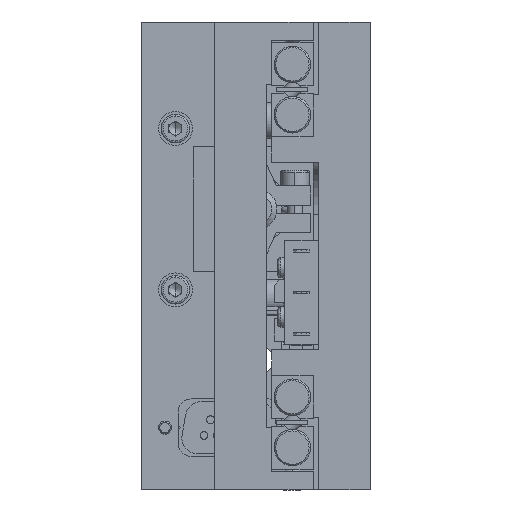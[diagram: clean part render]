
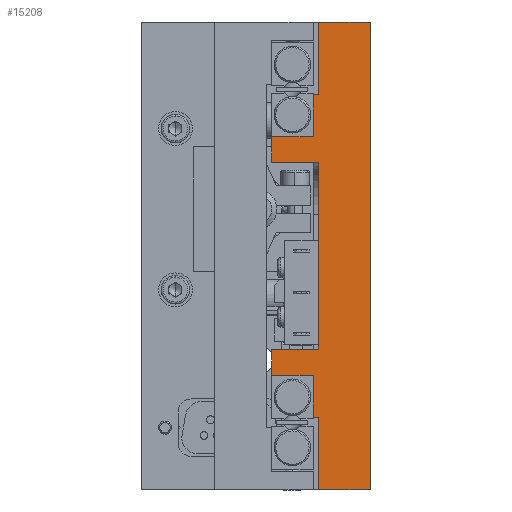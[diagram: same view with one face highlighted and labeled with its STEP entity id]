
A CAD part, left-side view. The second image highlights one B-rep face of the part: STEP entity #15208.
In plain terms, the highlighted planar face has unit normal (-1, 0, 0).
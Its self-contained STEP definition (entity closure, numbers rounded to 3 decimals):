
#356 = VECTOR ( 'NONE', #20296, 1000. ) ;
#985 = LINE ( 'NONE', #25962, #58666 ) ;
#1783 = ORIENTED_EDGE ( 'NONE', *, *, #14776, .F. ) ;
#2504 = CARTESIAN_POINT ( 'NONE',  ( -92.5, 11., -45. ) ) ;
#2516 = CARTESIAN_POINT ( 'NONE',  ( -92.5, 0., 45. ) ) ;
#2551 = ORIENTED_EDGE ( 'NONE', *, *, #43478, .F. ) ;
#3396 = VERTEX_POINT ( 'NONE', #4581 ) ;
#3500 = VECTOR ( 'NONE', #9594, 1000. ) ;
#4581 = CARTESIAN_POINT ( 'NONE',  ( -92.5, 0., 45. ) ) ;
#4767 = CARTESIAN_POINT ( 'NONE',  ( -92.5, 11., -45. ) ) ;
#5272 = CARTESIAN_POINT ( 'NONE',  ( -92.5, 11., -31. ) ) ;
#5481 = DIRECTION ( 'NONE',  ( 0., 0., 1. ) ) ;
#6844 = VECTOR ( 'NONE', #11572, 1000. ) ;
#6858 = VERTEX_POINT ( 'NONE', #59880 ) ;
#7844 = EDGE_CURVE ( 'NONE', #6858, #22664, #67480, .T. ) ;
#8087 = VECTOR ( 'NONE', #5481, 1000. ) ;
#8122 = DIRECTION ( 'NONE',  ( 0., 0., 1. ) ) ;
#8219 = ORIENTED_EDGE ( 'NONE', *, *, #21874, .T. ) ;
#8405 = VERTEX_POINT ( 'NONE', #64550 ) ;
#8665 = FACE_OUTER_BOUND ( 'NONE', #16712, .T. ) ;
#9380 = CARTESIAN_POINT ( 'NONE',  ( -92.5, 10., -45. ) ) ;
#9594 = DIRECTION ( 'NONE',  ( 0., 0., 1. ) ) ;
#9956 = VERTEX_POINT ( 'NONE', #59500 ) ;
#10238 = EDGE_CURVE ( 'NONE', #25794, #59289, #42739, .T. ) ;
#10387 = DIRECTION ( 'NONE',  ( 0., 0., 1. ) ) ;
#10491 = ORIENTED_EDGE ( 'NONE', *, *, #20041, .F. ) ;
#10997 = VERTEX_POINT ( 'NONE', #45585 ) ;
#11572 = DIRECTION ( 'NONE',  ( 0., 1., 0. ) ) ;
#14453 = ORIENTED_EDGE ( 'NONE', *, *, #44999, .F. ) ;
#14485 = AXIS2_PLACEMENT_3D ( 'NONE', #19504, #58612, #25129 ) ;
#14522 = VECTOR ( 'NONE', #31451, 1000. ) ;
#14776 = EDGE_CURVE ( 'NONE', #60569, #36985, #62900, .T. ) ;
#15208 = ADVANCED_FACE ( 'NONE', ( #8665 ), #52976, .F. ) ;
#15747 = EDGE_CURVE ( 'NONE', #40374, #60569, #34816, .T. ) ;
#15939 = CARTESIAN_POINT ( 'NONE',  ( -92.5, 10., -45. ) ) ;
#16204 = CARTESIAN_POINT ( 'NONE',  ( -92.5, 10., -18. ) ) ;
#16448 = VERTEX_POINT ( 'NONE', #37119 ) ;
#16620 = VECTOR ( 'NONE', #71818, 1000. ) ;
#16712 = EDGE_LOOP ( 'NONE', ( #57463, #10491, #66011, #55910, #40247, #14453, #26821, #29948, #2551, #1783, #45186, #55033, #56309, #40771, #53213, #8219 ) ) ;
#16826 = VECTOR ( 'NONE', #8122, 1000. ) ;
#19504 = CARTESIAN_POINT ( 'NONE',  ( -92.5, 10., -45. ) ) ;
#20041 = EDGE_CURVE ( 'NONE', #56666, #16448, #21443, .T. ) ;
#20296 = DIRECTION ( 'NONE',  ( 0., -1., 0. ) ) ;
#20421 = VERTEX_POINT ( 'NONE', #21073 ) ;
#20574 = VECTOR ( 'NONE', #68244, 1000. ) ;
#21073 = CARTESIAN_POINT ( 'NONE',  ( -92.5, 11., 31. ) ) ;
#21443 = LINE ( 'NONE', #9380, #34524 ) ;
#21874 = EDGE_CURVE ( 'NONE', #25794, #3396, #61389, .T. ) ;
#22664 = VERTEX_POINT ( 'NONE', #58510 ) ;
#23401 = EDGE_CURVE ( 'NONE', #66148, #6858, #44631, .T. ) ;
#23562 = CARTESIAN_POINT ( 'NONE',  ( -92.5, 11., 31. ) ) ;
#24965 = DIRECTION ( 'NONE',  ( 0., 0., 1. ) ) ;
#25129 = DIRECTION ( 'NONE',  ( 0., 0., -1. ) ) ;
#25292 = LINE ( 'NONE', #2504, #66368 ) ;
#25308 = DIRECTION ( 'NONE',  ( 0., 1., 0. ) ) ;
#25794 = VERTEX_POINT ( 'NONE', #39560 ) ;
#25962 = CARTESIAN_POINT ( 'NONE',  ( -92.5, 11., -31. ) ) ;
#26821 = ORIENTED_EDGE ( 'NONE', *, *, #7844, .F. ) ;
#26856 = VECTOR ( 'NONE', #10387, 1000. ) ;
#27723 = CARTESIAN_POINT ( 'NONE',  ( -92.5, 19., -45. ) ) ;
#28302 = LINE ( 'NONE', #53798, #356 ) ;
#28692 = CARTESIAN_POINT ( 'NONE',  ( -92.5, 10., -45. ) ) ;
#29355 = CARTESIAN_POINT ( 'NONE',  ( -92.5, 11., -23. ) ) ;
#29395 = LINE ( 'NONE', #37060, #14522 ) ;
#29948 = ORIENTED_EDGE ( 'NONE', *, *, #23401, .F. ) ;
#31451 = DIRECTION ( 'NONE',  ( 0., -1., 0. ) ) ;
#31853 = CARTESIAN_POINT ( 'NONE',  ( -92.5, 10., 23. ) ) ;
#31991 = EDGE_CURVE ( 'NONE', #59289, #10997, #71866, .T. ) ;
#32492 = CARTESIAN_POINT ( 'NONE',  ( -92.5, 19., -23. ) ) ;
#33209 = VERTEX_POINT ( 'NONE', #5272 ) ;
#34524 = VECTOR ( 'NONE', #42886, 1000. ) ;
#34816 = LINE ( 'NONE', #56513, #6844 ) ;
#36985 = VERTEX_POINT ( 'NONE', #57366 ) ;
#37060 = CARTESIAN_POINT ( 'NONE',  ( -92.5, 10., 45. ) ) ;
#37119 = CARTESIAN_POINT ( 'NONE',  ( -92.5, 10., 45. ) ) ;
#37857 = LINE ( 'NONE', #27723, #8087 ) ;
#38416 = DIRECTION ( 'NONE',  ( 0., 0., 1. ) ) ;
#39560 = CARTESIAN_POINT ( 'NONE',  ( -92.5, 0., -45. ) ) ;
#40247 = ORIENTED_EDGE ( 'NONE', *, *, #55674, .F. ) ;
#40374 = VERTEX_POINT ( 'NONE', #29355 ) ;
#40771 = ORIENTED_EDGE ( 'NONE', *, *, #31991, .F. ) ;
#41182 = EDGE_CURVE ( 'NONE', #16448, #3396, #29395, .T. ) ;
#42168 = VECTOR ( 'NONE', #38416, 1000. ) ;
#42739 = LINE ( 'NONE', #28692, #68881 ) ;
#42780 = VECTOR ( 'NONE', #70866, 1000. ) ;
#42886 = DIRECTION ( 'NONE',  ( 0., 0., 1. ) ) ;
#43478 = EDGE_CURVE ( 'NONE', #36985, #66148, #28302, .T. ) ;
#44537 = LINE ( 'NONE', #31853, #42780 ) ;
#44631 = LINE ( 'NONE', #60580, #16620 ) ;
#44999 = EDGE_CURVE ( 'NONE', #22664, #9956, #37857, .T. ) ;
#45186 = ORIENTED_EDGE ( 'NONE', *, *, #15747, .F. ) ;
#45585 = CARTESIAN_POINT ( 'NONE',  ( -92.5, 10., -31. ) ) ;
#46788 = EDGE_CURVE ( 'NONE', #33209, #10997, #985, .T. ) ;
#47758 = EDGE_CURVE ( 'NONE', #8405, #20421, #25292, .T. ) ;
#51910 = CARTESIAN_POINT ( 'NONE',  ( -92.5, 10., -45. ) ) ;
#52021 = LINE ( 'NONE', #23562, #20574 ) ;
#52622 = VECTOR ( 'NONE', #25308, 1000. ) ;
#52976 = PLANE ( 'NONE',  #14485 ) ;
#53213 = ORIENTED_EDGE ( 'NONE', *, *, #10238, .F. ) ;
#53798 = CARTESIAN_POINT ( 'NONE',  ( -92.5, 10., -18. ) ) ;
#55033 = ORIENTED_EDGE ( 'NONE', *, *, #56847, .F. ) ;
#55674 = EDGE_CURVE ( 'NONE', #9956, #8405, #44537, .T. ) ;
#55910 = ORIENTED_EDGE ( 'NONE', *, *, #47758, .F. ) ;
#56309 = ORIENTED_EDGE ( 'NONE', *, *, #46788, .T. ) ;
#56513 = CARTESIAN_POINT ( 'NONE',  ( -92.5, 10., -23. ) ) ;
#56536 = DIRECTION ( 'NONE',  ( 0., 1., 0. ) ) ;
#56553 = LINE ( 'NONE', #4767, #26856 ) ;
#56666 = VERTEX_POINT ( 'NONE', #64585 ) ;
#56847 = EDGE_CURVE ( 'NONE', #33209, #40374, #56553, .T. ) ;
#57366 = CARTESIAN_POINT ( 'NONE',  ( -92.5, 19., -18. ) ) ;
#57463 = ORIENTED_EDGE ( 'NONE', *, *, #41182, .F. ) ;
#58510 = CARTESIAN_POINT ( 'NONE',  ( -92.5, 19., 18. ) ) ;
#58612 = DIRECTION ( 'NONE',  ( 1., 0., 0. ) ) ;
#58666 = VECTOR ( 'NONE', #70646, 1000. ) ;
#58785 = CARTESIAN_POINT ( 'NONE',  ( -92.5, 10., 18. ) ) ;
#59289 = VERTEX_POINT ( 'NONE', #51910 ) ;
#59500 = CARTESIAN_POINT ( 'NONE',  ( -92.5, 19., 23. ) ) ;
#59880 = CARTESIAN_POINT ( 'NONE',  ( -92.5, 10., 18. ) ) ;
#59910 = CARTESIAN_POINT ( 'NONE',  ( -92.5, 19., -45. ) ) ;
#60569 = VERTEX_POINT ( 'NONE', #32492 ) ;
#60580 = CARTESIAN_POINT ( 'NONE',  ( -92.5, 10., -45. ) ) ;
#61389 = LINE ( 'NONE', #2516, #16826 ) ;
#62900 = LINE ( 'NONE', #59910, #3500 ) ;
#64550 = CARTESIAN_POINT ( 'NONE',  ( -92.5, 11., 23. ) ) ;
#64585 = CARTESIAN_POINT ( 'NONE',  ( -92.5, 10., 31. ) ) ;
#66011 = ORIENTED_EDGE ( 'NONE', *, *, #72316, .T. ) ;
#66148 = VERTEX_POINT ( 'NONE', #16204 ) ;
#66368 = VECTOR ( 'NONE', #24965, 1000. ) ;
#67480 = LINE ( 'NONE', #58785, #52622 ) ;
#68244 = DIRECTION ( 'NONE',  ( 0., 1., 0. ) ) ;
#68881 = VECTOR ( 'NONE', #56536, 1000. ) ;
#70646 = DIRECTION ( 'NONE',  ( 0., -1., 0. ) ) ;
#70866 = DIRECTION ( 'NONE',  ( 0., -1., 0. ) ) ;
#71818 = DIRECTION ( 'NONE',  ( 0., 0., 1. ) ) ;
#71866 = LINE ( 'NONE', #15939, #42168 ) ;
#72316 = EDGE_CURVE ( 'NONE', #56666, #20421, #52021, .T. ) ;
